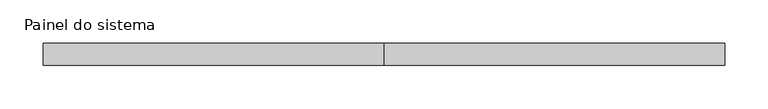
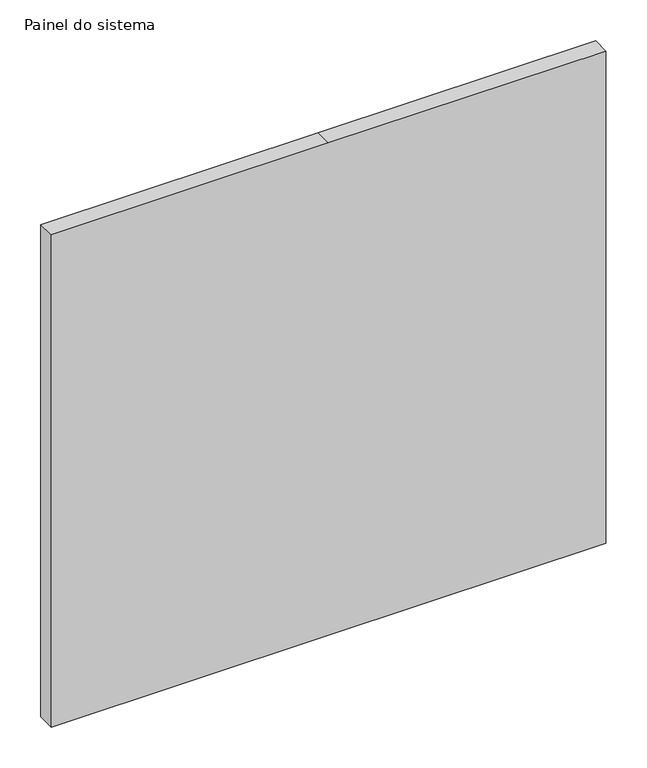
"""IFC4 building model written with IfcOpenShell, lengths in millimetres: plate geometry, Painel do sistema : Envidraçado."""

from ifc_helpers import new_model, si_unit, frame, origin, place, context, project, spatial, polyline, outline, extrude, source, transform, mapped, element, save


def painel_do_sistema_66fd5049(model_context):
    return source(origin(), model_context, "Body", "SweptSolid", [
        extrude(outline(polyline([(0.0, -391.6666667), (0.0, 0.0), (0.0, 391.6666667), (735.0, 391.6666667), (735.0, 0.0), (735.0, -391.6666667), (0.0, -391.6666667)])), frame((0.0, 24.5, 0.0), z_axis=(0.0, 1.0, 0.0), x_axis=(0.0, 0.0, 1.0)), (0.0, 0.0, 1.0), 25.0),
    ])


if __name__ == "__main__":
    model = new_model("IFC4")
    model_context = context("Model", 3, world=origin())
    ifc_project = project(units=[si_unit("LENGTHUNIT", "METRE", prefix="MILLI")], contexts=[model_context])
    site = spatial("IfcSite", under=ifc_project)
    building = spatial("IfcBuilding", under=site)
    placement = place(None, origin())
    painel_do_sistema_shape = painel_do_sistema_66fd5049(model_context)
    element("IfcPlate", 1, ObjectType="Painel do sistema : Envidraçado", at=placement, inside=building, context=model_context, shape_type="MappedRepresentation", body=[
        mapped(painel_do_sistema_shape, transform((0.0, 0.0, 0.0), x_axis=(1.0, 0.0, 0.0), y_axis=(0.0, 1.0, 0.0), z_axis=(0.0, 0.0, 1.0))),
    ])
    save(model, "model.ifc")
